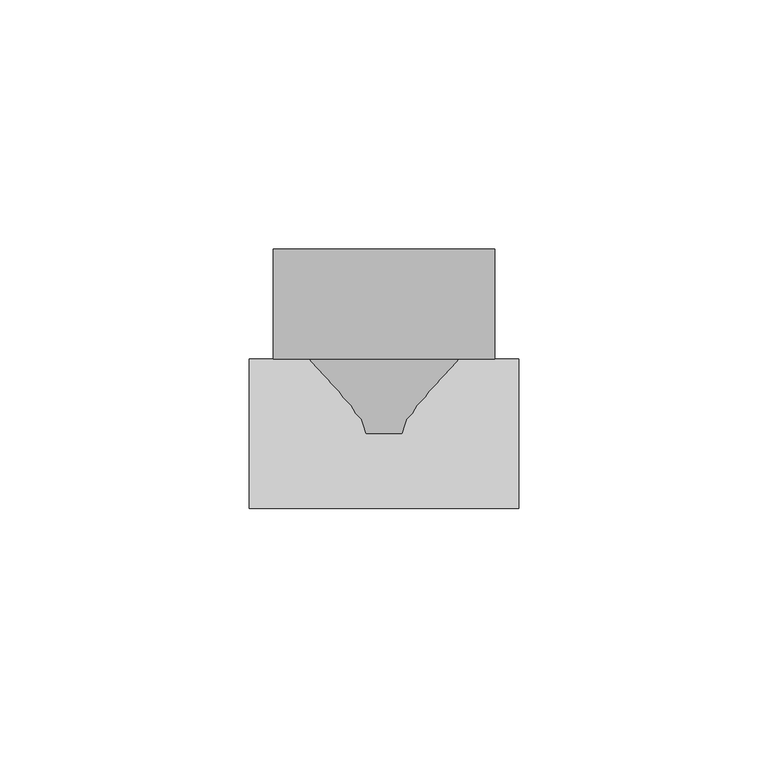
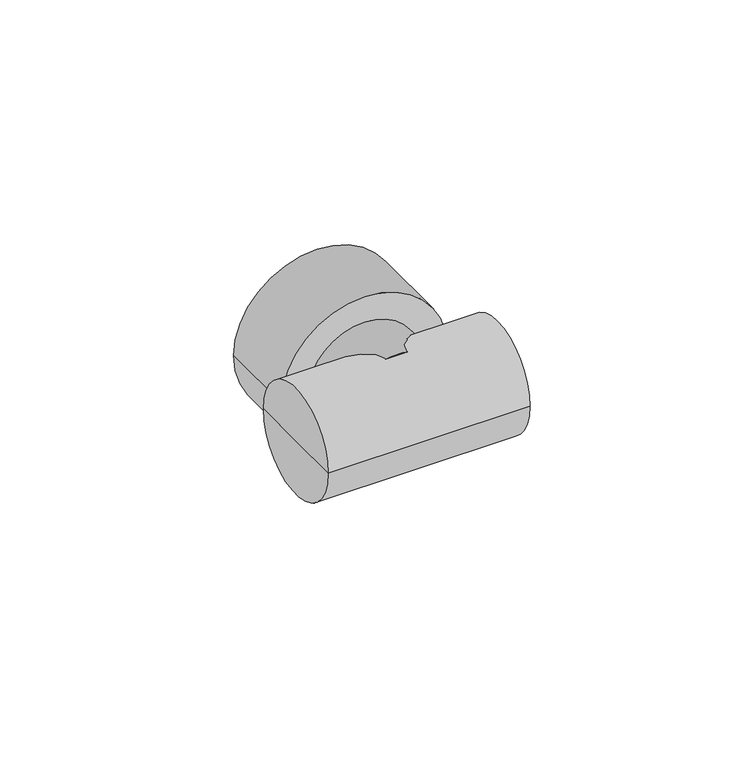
"""IFC4 building model written with IfcOpenShell, lengths in millimetres: pipe fitting geometry, KAN-therm PP trojnik gw 3_4 : KAN-therm PP trojnik gw 3_4."""

from ifc_helpers import new_model, si_unit, frame, origin, place, context, project, spatial, circle_curve, source, transform, mapped, element, save
from ifc_brep_helpers import plane_surface, cylinder_surface, advanced_brep


def pipe_fitting_964f8dcf(model_context):
    return source(origin(), model_context, "Body", "AdvancedBrep", [
        advanced_brep(
        [(-22.25, 37.0, 0.0), (22.25, 37.0, 0.0), (22.25, 15.0, 0.0), (-22.25, 15.0, 0.0), (0.0, 37.0, 0.0), (-15.0, 0.0, 0.0), (15.0, 0.0, 0.0), (0.0, 0.0, 0.0), (-15.0, 15.0, 0.0), (15.0, 15.0, 0.0)],
        [
            (0, 1, circle_curve(frame((0.0, 37.0, 0.0), z_axis=(0.0, -1.0, 0.0), x_axis=(1.0, 0.0, 0.0)), 22.25)),
            (1, 2),
            (2, 3, circle_curve(frame((0.0, 15.0, 0.0), z_axis=(0.0, 1.0, 0.0), x_axis=(1.0, 0.0, 0.0)), 22.25)),
            (3, 0),
            (1, 0, circle_curve(frame((0.0, 37.0, 0.0), z_axis=(0.0, -1.0, 0.0), x_axis=(1.0, 0.0, 0.0)), 22.25)),
            (3, 2, circle_curve(frame((0.0, 15.0, 0.0), z_axis=(0.0, 1.0, 0.0), x_axis=(1.0, 0.0, 0.0)), 22.25)),
            (4, 1),
            (0, 4),
            (5, 6, circle_curve(frame((0.0, 0.0, 0.0), z_axis=(0.0, -1.0, 0.0), x_axis=(1.0, 0.0, 0.0)), 15.0)),
            (6, 7),
            (7, 5),
            (6, 5, circle_curve(frame((0.0, 0.0, 0.0), z_axis=(0.0, -1.0, 0.0), x_axis=(1.0, 0.0, 0.0)), 15.0)),
            (8, 9, circle_curve(frame((0.0, 15.0, 0.0), z_axis=(0.0, -1.0, 0.0), x_axis=(1.0, 0.0, 0.0)), 15.0)),
            (9, 6),
            (5, 8),
            (9, 8, circle_curve(frame((0.0, 15.0, 0.0), z_axis=(0.0, -1.0, 0.0), x_axis=(1.0, 0.0, 0.0)), 15.0)),
            (2, 9),
            (8, 3),
        ],
        [
            cylinder_surface(frame((0.0, 2010.0, 0.0), z_axis=(0.0, 1.0, 0.0), x_axis=(1.0, 0.0, 0.0)), 22.25),
            plane_surface(frame((0.0, 37.0, 0.0), z_axis=(0.0, 1.0, 0.0), x_axis=(1.0, 0.0, 0.0))),
            plane_surface(frame((0.0, 0.0, 0.0), z_axis=(0.0, -1.0, 0.0), x_axis=(1.0, 0.0, 0.0))),
            cylinder_surface(frame((0.0, 2010.0, 0.0), z_axis=(0.0, 1.0, 0.0), x_axis=(1.0, 0.0, 0.0)), 15.0),
            plane_surface(frame((0.0, 15.0, 0.0), z_axis=(0.0, -1.0, 0.0), x_axis=(1.0, 0.0, 0.0))),
        ],
        [
            (0, [[1, 2, 3, 4]]),
            (0, [[5, -4, 6, -2]]),
            (1, [[7, -1, 8]]),
            (1, [[-8, -5, -7]]),
            (2, [[9, 10, 11]]),
            (2, [[12, -11, -10]]),
            (3, [[13, 14, -9, 15]]),
            (3, [[16, -15, -12, -14]]),
            (4, [[-3, 17, -13, 18]]),
            (4, [[-6, -18, -16, -17]]),
        ],
    ),
        advanced_brep(
        [(27.0, 0.0, 0.0), (27.0, -15.0, 0.0), (27.0, 15.0, 0.0), (-27.0, 15.0, 0.0), (-27.0, -15.0, 0.0), (-27.0, 0.0, 0.0)],
        [
            (0, 1),
            (1, 2, circle_curve(frame((27.0, 0.0, 0.0), z_axis=(1.0, 0.0, 0.0), x_axis=(0.0, -1.0, 0.0)), 15.0)),
            (2, 0),
            (2, 1, circle_curve(frame((27.0, 0.0, 0.0), z_axis=(1.0, 0.0, 0.0), x_axis=(0.0, -1.0, 0.0)), 15.0)),
            (3, 4, circle_curve(frame((-27.0, 0.0, 0.0), z_axis=(-1.0, 0.0, 0.0), x_axis=(0.0, -1.0, 0.0)), 15.0)),
            (4, 5),
            (5, 3),
            (4, 3, circle_curve(frame((-27.0, 0.0, 0.0), z_axis=(-1.0, 0.0, 0.0), x_axis=(0.0, -1.0, 0.0)), 15.0)),
            (1, 4),
            (3, 2),
        ],
        [
            plane_surface(frame((27.0, 0.0, 0.0), z_axis=(1.0, 0.0, 0.0), x_axis=(0.0, -1.0, 0.0))),
            plane_surface(frame((-27.0, 0.0, 0.0), z_axis=(-1.0, 0.0, 0.0), x_axis=(0.0, -1.0, 0.0))),
            cylinder_surface(frame((1999.5, 0.0, 0.0), z_axis=(1.0, 0.0, 0.0), x_axis=(0.0, -1.0, 0.0)), 15.0),
        ],
        [
            (0, [[1, 2, 3]]),
            (0, [[-3, 4, -1]]),
            (1, [[5, 6, 7]]),
            (1, [[8, -7, -6]]),
            (2, [[-2, 9, -5, 10]]),
            (2, [[-4, -10, -8, -9]]),
        ],
    ),
    ])


if __name__ == "__main__":
    model = new_model("IFC4")
    model_context = context("Model", 3, world=origin())
    ifc_project = project(units=[si_unit("LENGTHUNIT", "METRE", prefix="MILLI")], contexts=[model_context])
    site = spatial("IfcSite", under=ifc_project)
    building = spatial("IfcBuilding", under=site)
    placement = place(None, origin())
    pipe_fitting_shape = pipe_fitting_964f8dcf(model_context)
    element("IfcPipeFitting", 1, ObjectType="KAN-therm PP trojnik gw 3_4 : KAN-therm PP trojnik gw 3_4", at=placement, inside=building, context=model_context, shape_type="MappedRepresentation", body=[
        mapped(pipe_fitting_shape, transform((0.0, 0.0, 0.0), x_axis=(1.0, 0.0, 0.0), y_axis=(0.0, 1.0, 0.0), z_axis=(0.0, 0.0, 1.0))),
    ])
    save(model, "model.ifc")
